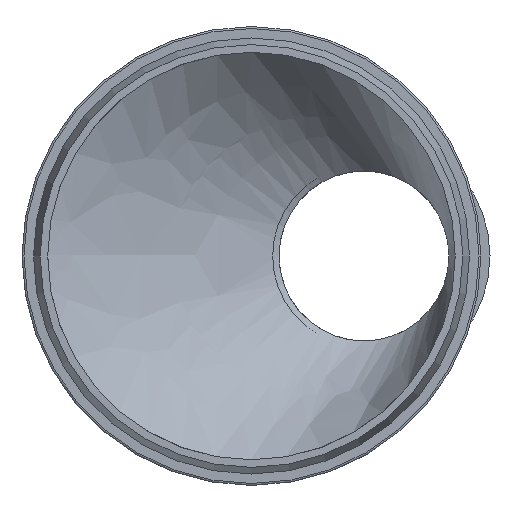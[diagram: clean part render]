
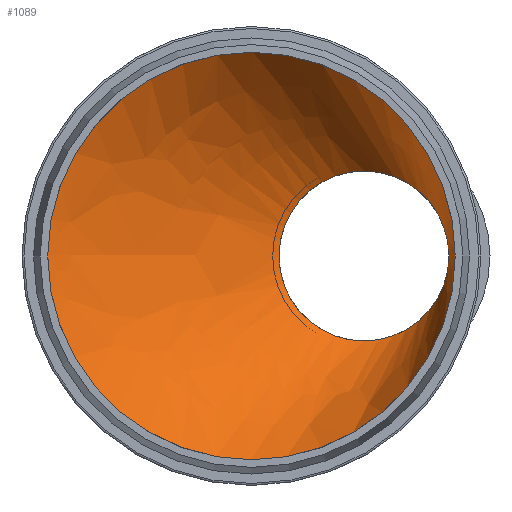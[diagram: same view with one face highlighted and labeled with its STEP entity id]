
A CAD part, front view. The second image highlights one B-rep face of the part: STEP entity #1089.
In plain terms, the highlighted free-form (B-spline) face has degree [1, 2] with [2, 9] control points.
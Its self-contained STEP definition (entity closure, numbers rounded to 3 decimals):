
#202=FACE_OUTER_BOUND($,#262,.T.);
#262=EDGE_LOOP($,(#729,#730,#731,#732,#733,#734));
#364=B_SPLINE_CURVE_WITH_KNOTS($,1,(#1611,#1612),.UNSPECIFIED.,.F.,.F.,
(2,2),(0.,2.301),.UNSPECIFIED.);
#414=CIRCLE($,#1162,21.475);
#415=CIRCLE($,#1163,21.475);
#416=CIRCLE($,#1164,51.5);
#417=CIRCLE($,#1165,51.5);
#473=VERTEX_POINT($,#1606);
#474=VERTEX_POINT($,#1607);
#475=VERTEX_POINT($,#1610);
#476=VERTEX_POINT($,#1613);
#584=EDGE_CURVE($,#473,#474,#414,.T.);
#585=EDGE_CURVE($,#474,#473,#415,.T.);
#586=EDGE_CURVE($,#474,#475,#364,.T.);
#587=EDGE_CURVE($,#475,#476,#416,.T.);
#588=EDGE_CURVE($,#476,#475,#417,.T.);
#729=ORIENTED_EDGE($,*,*,#584,.F.);
#730=ORIENTED_EDGE($,*,*,#585,.F.);
#731=ORIENTED_EDGE($,*,*,#586,.T.);
#732=ORIENTED_EDGE($,*,*,#587,.T.);
#733=ORIENTED_EDGE($,*,*,#588,.T.);
#734=ORIENTED_EDGE($,*,*,#586,.F.);
#1019=(
BOUNDED_SURFACE()
B_SPLINE_SURFACE(1,2,((#1588,#1589,#1590,#1591,#1592,#1593,#1594,#1595,
#1596),(#1597,#1598,#1599,#1600,#1601,#1602,#1603,#1604,#1605)),
 .UNSPECIFIED.,.F.,.T.,.F.)
B_SPLINE_SURFACE_WITH_KNOTS((2,2),(3,2,2,2,3),(-0.426,4.447),
(-3.142,-1.571,0.,1.571,3.142),
 .UNSPECIFIED.)
GEOMETRIC_REPRESENTATION_ITEM()
RATIONAL_B_SPLINE_SURFACE(((1.,0.707,1.,0.707,1.,
0.707,1.,0.707,1.),(1.,0.707,1.,0.707,
1.,0.707,1.,0.707,1.)))
REPRESENTATION_ITEM($)
SURFACE()
);
#1089=ADVANCED_FACE($,(#202),#1019,.T.);
#1162=AXIS2_PLACEMENT_3D($,#1608,#1293,#1294);
#1163=AXIS2_PLACEMENT_3D($,#1609,#1295,#1296);
#1164=AXIS2_PLACEMENT_3D($,#1614,#1297,#1298);
#1165=AXIS2_PLACEMENT_3D($,#1615,#1299,#1300);
#1293=DIRECTION('center_axis',(0.,-1.,0.));
#1294=DIRECTION('ref_axis',(1.,0.,0.));
#1295=DIRECTION('center_axis',(0.,-1.,0.));
#1296=DIRECTION('ref_axis',(1.,0.,0.));
#1297=DIRECTION('center_axis',(0.,-1.,0.));
#1298=DIRECTION('ref_axis',(1.,0.,0.));
#1299=DIRECTION('center_axis',(0.,-1.,0.));
#1300=DIRECTION('ref_axis',(1.,0.,0.));
#1588=CARTESIAN_POINT('Ctrl Pts',(39.26,114.147,14.908));
#1589=CARTESIAN_POINT('Ctrl Pts',(28.615,120.094,14.908));
#1590=CARTESIAN_POINT('Ctrl Pts',(28.615,120.094,0.));
#1591=CARTESIAN_POINT('Ctrl Pts',(28.615,120.094,-14.908));
#1592=CARTESIAN_POINT('Ctrl Pts',(39.26,114.147,-14.908));
#1593=CARTESIAN_POINT('Ctrl Pts',(49.905,108.2,-14.908));
#1594=CARTESIAN_POINT('Ctrl Pts',(49.905,108.2,0.));
#1595=CARTESIAN_POINT('Ctrl Pts',(49.905,108.2,14.908));
#1596=CARTESIAN_POINT('Ctrl Pts',(39.26,114.147,14.908));
#1597=CARTESIAN_POINT('Ctrl Pts',(1.275,46.156,74.491));
#1598=CARTESIAN_POINT('Ctrl Pts',(-51.915,75.872,74.491));
#1599=CARTESIAN_POINT('Ctrl Pts',(-51.915,75.872,0.));
#1600=CARTESIAN_POINT('Ctrl Pts',(-51.915,75.872,-74.491));
#1601=CARTESIAN_POINT('Ctrl Pts',(1.275,46.156,-74.491));
#1602=CARTESIAN_POINT('Ctrl Pts',(54.464,16.441,-74.491));
#1603=CARTESIAN_POINT('Ctrl Pts',(54.464,16.441,0.));
#1604=CARTESIAN_POINT('Ctrl Pts',(54.464,16.441,74.491));
#1605=CARTESIAN_POINT('Ctrl Pts',(1.275,46.156,74.491));
#1606=CARTESIAN_POINT('',(49.905,108.2,0.));
#1607=CARTESIAN_POINT('',(35.937,108.2,20.12));
#1608=CARTESIAN_POINT('Origin',(28.43,108.2,0.));
#1609=CARTESIAN_POINT('Origin',(28.43,108.2,0.));
#1610=CARTESIAN_POINT('',(18.004,76.1,48.251));
#1611=CARTESIAN_POINT('Ctrl Pts',(35.937,108.2,20.12));
#1612=CARTESIAN_POINT('Ctrl Pts',(18.004,76.1,48.251));
#1613=CARTESIAN_POINT('',(51.5,76.1,0.));
#1614=CARTESIAN_POINT('Origin',(0.,76.1,0.));
#1615=CARTESIAN_POINT('Origin',(0.,76.1,0.));
